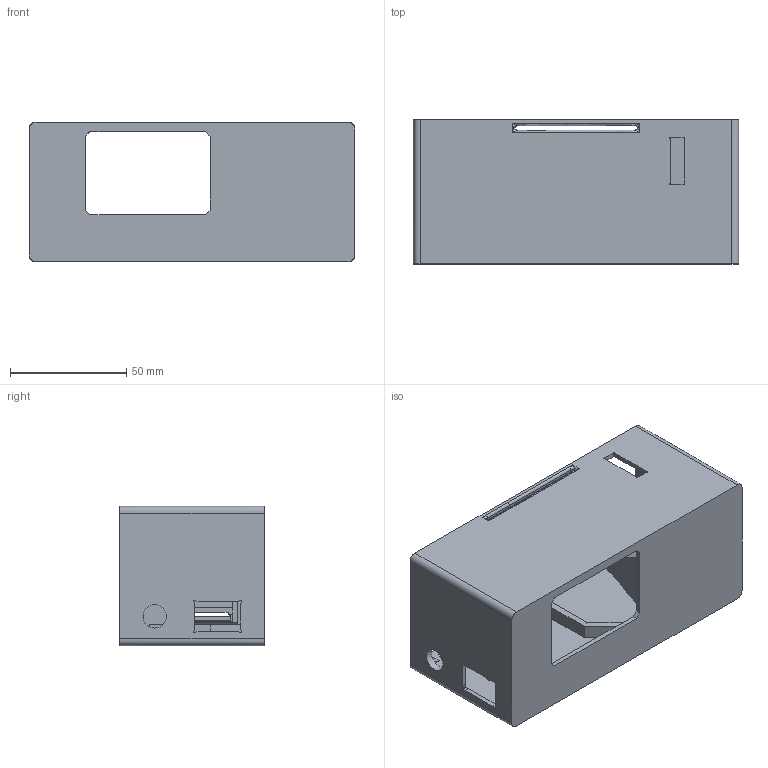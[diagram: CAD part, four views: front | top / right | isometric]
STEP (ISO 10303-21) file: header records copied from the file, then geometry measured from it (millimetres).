
FILE_DESCRIPTION(/* description */ ('STEP AP242 Edition 2','CAx-IF Rec.Pracs.---Representation and Presentation of Product Manufacturing Information (PMI)---4.0---2014-10-13','CAx-IF Rec.Pracs.---3D Tessellated Geometry---0.4---2014-09-14','2;1','CAx-IF Rec.Pracs.---User Defined Attributes---1.5---2016-08-15'),/* implementation_level */ '2;1');
FILE_NAME(/* name */ 'MHL - caixa',/* time_stamp */ '2025-11-29T18:38:08Z',/* author */ (''),/* organization */ (''),/* preprocessor_version */ 'ST-DEVELOPER v20',/* originating_system */ 'ONSHAPE BY PTC INC, 1.207',/* authorisation */ ' ');
FILE_SCHEMA (('AP242_MANAGED_MODEL_BASED_3D_ENGINEERING_MIM_LF { 1 0 10303 442 3 1 4 }'));
Length unit declared in the file: metre
Products named in the file (1): caixa
Bounding box: 140 x 62 x 60 mm (x, y, z)
Volume: 82290.8 mm3; surface area: 62699 mm2
Topology: 1 solids, 1 shells, 251 faces, 681 edges, 427 vertices
Faces by surface type: plane 146, bspline 63, cylinder 42
Full cylindrical faces by diameter (mm): 4.6 x5, 5.1 x1, 10 x1
Entity records: 15285 total; most frequent: CARTESIAN_POINT 9510, ORIENTED_EDGE 1322, DIRECTION 941, EDGE_CURVE 661, VERTEX_POINT 426, LINE 391, VECTOR 391, EDGE_LOOP 285
